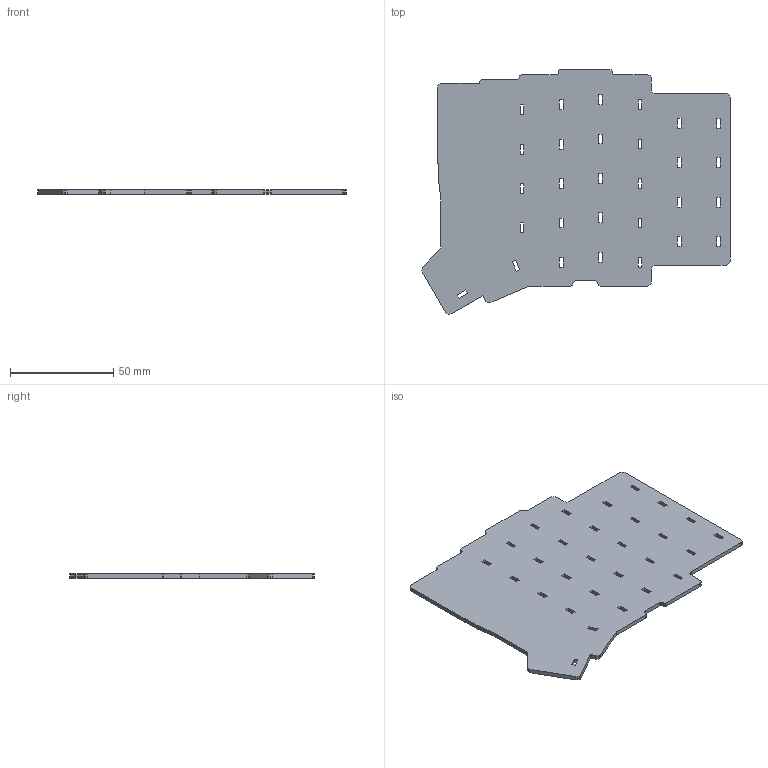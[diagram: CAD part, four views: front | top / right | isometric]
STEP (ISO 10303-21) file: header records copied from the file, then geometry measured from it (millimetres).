
FILE_DESCRIPTION(('Open CASCADE Model'),'2;1');
FILE_NAME('Open CASCADE Shape Model','1979-01-01T00:00:00',('Author'),( 'Open CASCADE'),'Open CASCADE STEP processor 8.0','Open CASCADE 8.0' ,'Unknown');
FILE_SCHEMA(('AUTOMOTIVE_DESIGN { 1 0 10303 214 1 1 1 1 }'));
Length unit declared in the file: millimetre
Products named in the file (1): Open CASCADE STEP translator 8.0 5
Bounding box: 149.11 x 118.41 x 2 mm (x, y, z)
Volume: 27462.9 mm3; surface area: 29243.9 mm2
Topology: 1 solids, 1 shells, 241 faces, 717 edges, 478 vertices
Faces by surface type: plane 241
Entity records: 17358 total; most frequent: CARTESIAN_POINT 2871, DIRECTION 2635, LINE 2151, VECTOR 2151, ORIENTED_EDGE 1434, PCURVE 1434, DEFINITIONAL_REPRESENTATION 1434, EDGE_CURVE 717
